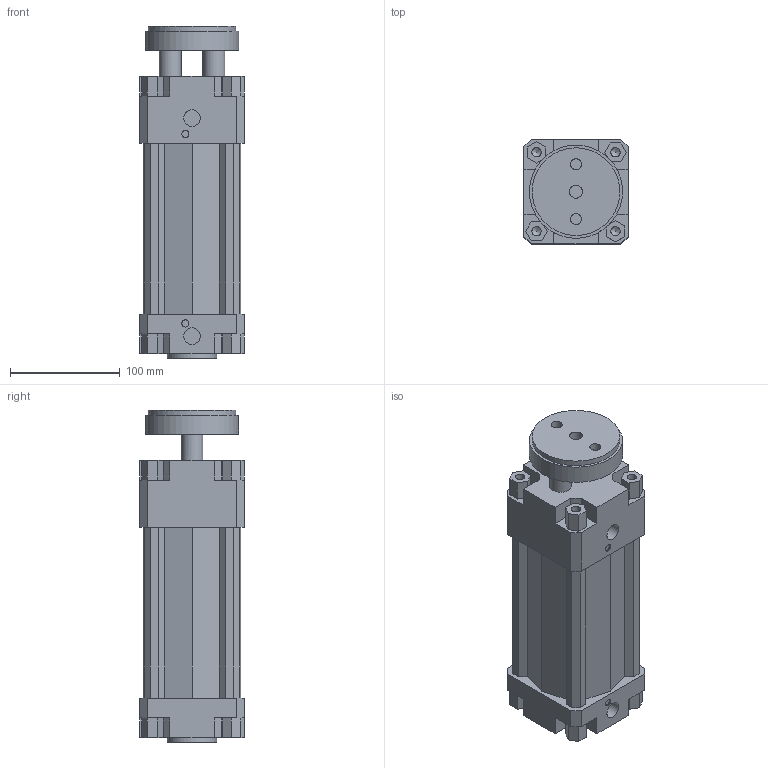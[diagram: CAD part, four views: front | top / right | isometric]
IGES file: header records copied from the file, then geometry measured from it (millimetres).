
Global section: file name: 134#_080_0100_01; native system: Autodesk Inventor 2014; preprocessor: unknown; author: A. Manieri; date: 20161006.165158; units: millimetre
Bounding box: 95 x 95 x 303 mm (x, y, z)
Volume: 1563256.9 mm3; surface area: 249879.8 mm2
Topology: 2 solids, 2 shells, 180 faces, 491 edges, 335 vertices
Faces by surface type: bspline 180
